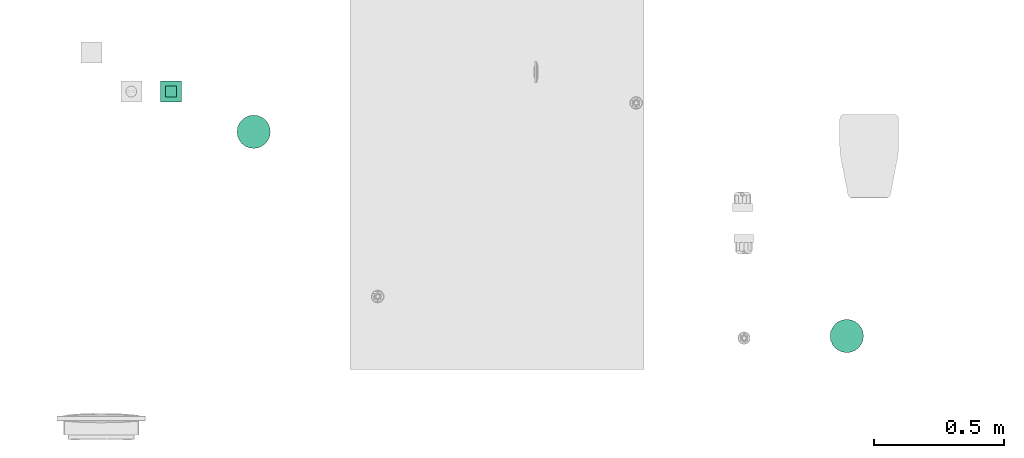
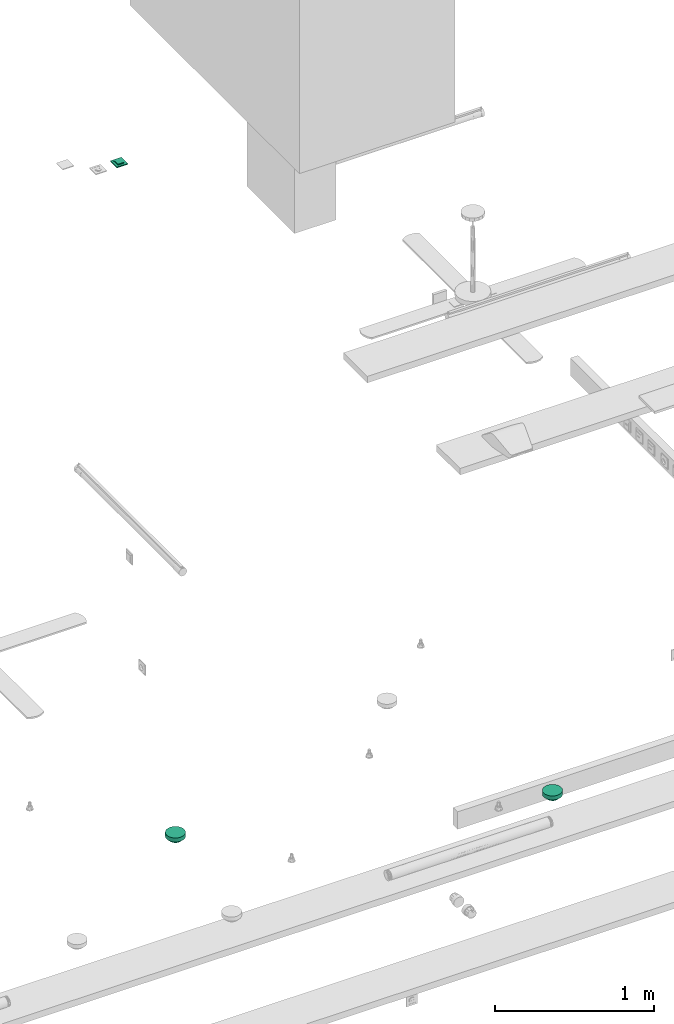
# One storey, part 68 of 153: 3 flow terminals.
"""IFC2X3 building model written with IfcOpenShell, lengths in metres."""

from ifc_helpers import new_model, entity, si_unit, converted_unit, derived_unit, direction, frame, origin, place, context, subcontext, project, spatial, faceted_brep, source, transform, mapped, type_object, type_shapes, element, save


model = new_model("IFC2X3")

# Units and contexts
model_context = context("Model", 3, precision=1e-05, world=origin(), true_north=direction((6.12303176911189e-17, 1.0)))
body_context = subcontext(model_context, "Body", "Model", "MODEL_VIEW")
ifc_project = project(units=[si_unit("LENGTHUNIT", "METRE"), si_unit("AREAUNIT", "SQUARE_METRE"), si_unit("VOLUMEUNIT", "CUBIC_METRE"), converted_unit("PLANEANGLEUNIT", "DEGREE", entity("IfcRatioMeasure", 0.0174532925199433), si_unit("PLANEANGLEUNIT", "RADIAN"), dimensions=[0, 0, 0, 0, 0, 0, 0]), si_unit("MASSUNIT", "GRAM", prefix="KILO"), derived_unit("MASSDENSITYUNIT", [(si_unit("MASSUNIT", "GRAM", prefix="KILO"), 1), (si_unit("LENGTHUNIT", "METRE"), -3)]), si_unit("TIMEUNIT", "SECOND"), si_unit("FREQUENCYUNIT", "HERTZ"), si_unit("THERMODYNAMICTEMPERATUREUNIT", "DEGREE_CELSIUS"), derived_unit("THERMALTRANSMITTANCEUNIT", [(si_unit("MASSUNIT", "GRAM", prefix="KILO"), 1), (si_unit("THERMODYNAMICTEMPERATUREUNIT", "KELVIN"), -1), (si_unit("TIMEUNIT", "SECOND"), -3)]), derived_unit("VOLUMETRICFLOWRATEUNIT", [(si_unit("LENGTHUNIT", "METRE"), 3), (si_unit("TIMEUNIT", "SECOND"), -1)]), si_unit("ELECTRICCURRENTUNIT", "AMPERE"), si_unit("ELECTRICVOLTAGEUNIT", "VOLT"), si_unit("POWERUNIT", "WATT"), si_unit("FORCEUNIT", "NEWTON"), si_unit("ILLUMINANCEUNIT", "LUX"), si_unit("LUMINOUSFLUXUNIT", "LUMEN"), si_unit("LUMINOUSINTENSITYUNIT", "CANDELA"), derived_unit("USERDEFINED", [(si_unit("MASSUNIT", "GRAM", prefix="KILO"), -1), (si_unit("LENGTHUNIT", "METRE"), -2), (si_unit("TIMEUNIT", "SECOND"), 3), (si_unit("LUMINOUSFLUXUNIT", "LUMEN"), 1)]), derived_unit("LINEARVELOCITYUNIT", [(si_unit("LENGTHUNIT", "METRE"), 1), (si_unit("TIMEUNIT", "SECOND"), -1)]), si_unit("PRESSUREUNIT", "PASCAL"), derived_unit("USERDEFINED", [(si_unit("LENGTHUNIT", "METRE"), -2), (si_unit("MASSUNIT", "GRAM", prefix="KILO"), 1), (si_unit("TIMEUNIT", "SECOND"), -2)])], contexts=[model_context])

# Site, building, storey
site_placement = place(None, origin())
site = spatial("IfcSite", under=ifc_project, at=site_placement, Name="Default", CompositionType="ELEMENT")
building_placement = place(site_placement, origin())
building = spatial("IfcBuilding", under=site, at=building_placement, CompositionType="ELEMENT")
storey_placement = place(building_placement, frame((0.0, 0.0, -4.62)))
storey = spatial("IfcBuildingStorey", under=building, at=storey_placement, Name="S02", CompositionType="ELEMENT", Elevation=-4.62)

# Flow terminals
light_fixture_type = type_object("IfcLightFixtureType", Name="Détecteur 360°", PredefinedType="NOTDEFINED")
shared_shape_1 = source(origin(), body_context, "Body", "Brep", [
    faceted_brep([(0.0, -0.0397165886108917, 0.0531256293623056), (0.0, -0.034524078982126, 0.0563702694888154), (-0.0175153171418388, -0.0435914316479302, 0.0478512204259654), (-0.0194029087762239, -0.000878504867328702, 0.0644483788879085), (0.0, 0.0, 0.0669999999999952), (0.0, 0.00603476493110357, 0.0659648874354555), (-0.0174057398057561, -0.0159851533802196, 0.0630502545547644), (-0.0366619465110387, -0.0127227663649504, 0.0549213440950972), (-0.026998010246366, -0.0195753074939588, 0.0584711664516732), (-0.0202403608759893, -0.0335607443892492, 0.054639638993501), (-0.0359767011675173, -0.0348394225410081, 0.0444249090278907), (-0.0276843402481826, -0.0401006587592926, 0.0459804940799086), (-0.0133088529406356, -0.0517577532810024, 0.0400582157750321), (-0.0172617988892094, -0.0486391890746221, 0.042533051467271), (-0.0256912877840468, -0.0533485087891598, 0.0299999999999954), (-0.0462941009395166, -0.0369183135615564, 0.0299999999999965), (0.0, -0.0241390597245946, 0.0628595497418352), (-0.0186245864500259, -0.0267295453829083, 0.0589100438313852), (-0.0139070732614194, -0.0374370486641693, 0.0540817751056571), (0.0, 0.0449090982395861, 0.049880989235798), (-0.0172618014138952, 0.0486391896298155, 0.0425330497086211), (0.0, 0.0397165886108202, 0.0531256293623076), (-0.0186245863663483, 0.0267295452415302, 0.0589100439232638), (-0.0202403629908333, 0.0335607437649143, 0.054639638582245), (-0.0353547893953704, 0.0284533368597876, 0.0494330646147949), (0.0, 0.0120695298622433, 0.0649297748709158), (-0.0249385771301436, 0.0204731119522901, 0.0590841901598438), (-0.0191783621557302, 0.0150189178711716, 0.062775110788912), (-0.0465404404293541, -0.0196510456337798, 0.0438984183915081), (-0.052010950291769, -0.0250471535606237, 0.029999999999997), (-0.0453471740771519, -0.0286501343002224, 0.0397747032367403), (-0.0365036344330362, -0.0226255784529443, 0.0516441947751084), (-0.0175153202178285, 0.0435914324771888, 0.0478512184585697), (-0.0359926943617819, 0.0451334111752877, 0.0299999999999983), (-0.0276843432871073, 0.0401006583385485, 0.0459804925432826), (-0.00849704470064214, -0.0572729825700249, 0.0299999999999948), (0.0, -0.0592123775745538, 0.0299999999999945), (0.0, -0.0545512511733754, 0.0364787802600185), (0.0, -0.049890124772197, 0.0429575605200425), (-0.0169940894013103, -0.055333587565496, 0.0299999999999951), (-0.0359767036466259, 0.0348394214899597, 0.0444249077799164), (-0.025691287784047, 0.0533485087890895, 0.0299999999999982), (-0.0308419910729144, 0.0492409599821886, 0.0299999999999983), (-0.0130265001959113, 0.0514867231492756, 0.040526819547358), (-0.0169940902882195, 0.0553335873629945, 0.029999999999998), (0.0, 0.0498901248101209, 0.0429575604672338), (-0.0353547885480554, -0.0284533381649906, 0.0494330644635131), (0.0, 0.0181042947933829, 0.0638946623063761), (-0.0473669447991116, -0.00128092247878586, 0.0474310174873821), (-0.0485435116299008, -0.00908961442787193, 0.0452357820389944), (-0.0366597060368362, -0.0032867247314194, 0.0563153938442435), (-0.0226425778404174, -0.0107553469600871, 0.0624973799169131), (0.0, -0.00603476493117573, 0.0659648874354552), (0.0, 0.0293315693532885, 0.0596149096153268), (-0.0139070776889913, 0.0374370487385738, 0.0540817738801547), (-0.0449600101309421, 0.018422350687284, 0.0461366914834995), (-0.0453471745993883, 0.0286501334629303, 0.0397747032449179), (-0.0476906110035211, 0.00670602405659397, 0.0466053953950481), (-0.0577277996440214, 0.0131759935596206, 0.0299999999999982), (-0.0577277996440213, 0.00658799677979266, 0.029999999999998), (-0.0577277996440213, 0.0, 0.0299999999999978), (0.0, -0.0449090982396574, 0.0498809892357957), (-0.0308419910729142, -0.049240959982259, 0.0299999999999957), (-0.0359926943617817, -0.0451334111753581, 0.029999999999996), (0.0, 0.0345240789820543, 0.0563702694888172), (-0.0411433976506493, 0.0410258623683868, 0.0299999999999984), (-0.0462941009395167, 0.0369183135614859, 0.0299999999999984), (-0.0491525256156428, -0.03098273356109, 0.0299999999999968), (-0.0577277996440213, -0.0131759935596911, 0.0299999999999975), (0.0, -0.018104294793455, 0.0638946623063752), (-0.0377433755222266, 0.0044838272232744, 0.0554913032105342), (-0.0577277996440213, -0.00658799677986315, 0.0299999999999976), (-0.0385149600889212, 0.0124844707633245, 0.0536578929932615), (-0.0491525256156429, 0.0309827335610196, 0.0299999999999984), (-0.0548693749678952, 0.0191115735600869, 0.0299999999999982), (0.0, 0.0241390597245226, 0.0628595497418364), (-0.014625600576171, 0.0100436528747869, 0.0649170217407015), (-0.0271766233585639, 0.00920278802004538, 0.0609170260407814), (0.0, -0.0120695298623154, 0.0649297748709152), (-0.0520109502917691, 0.0250471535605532, 0.0299999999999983), (-0.0411433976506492, -0.0410258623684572, 0.0299999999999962), (-0.0548693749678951, -0.0191115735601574, 0.0299999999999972), (0.0, -0.0293315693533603, 0.0596149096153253), (0.0, 0.0545512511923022, 0.0364787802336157), (0.0, 0.0592123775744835, 0.0299999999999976), (-0.00849704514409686, 0.057272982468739, 0.0299999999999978), (-0.0127455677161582, 0.0563032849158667, 0.0299999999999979), (-0.0213426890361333, 0.054341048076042, 0.0299999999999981), (0.0175153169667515, 0.0435914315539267, 0.0478512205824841), (0.0194029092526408, 0.000878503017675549, 0.0644483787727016), (0.017405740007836, 0.0159851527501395, 0.0630502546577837), (0.0366619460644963, 0.012722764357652, 0.0549213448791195), (0.0269980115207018, 0.0195753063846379, 0.0584711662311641), (0.0202403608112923, 0.0335607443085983, 0.0546396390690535), (0.0359767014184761, 0.0348394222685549, 0.0444249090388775), (0.0276843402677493, 0.0401006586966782, 0.0459804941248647), (0.0133088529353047, 0.0517577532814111, 0.0400582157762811), (0.0172617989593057, 0.0486391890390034, 0.0425330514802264), (0.0256912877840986, 0.0533485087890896, 0.0299999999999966), (0.0462941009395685, 0.0369183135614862, 0.0299999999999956), (0.00849704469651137, 0.0572729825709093, 0.0299999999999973), (0.0169940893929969, 0.0553335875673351, 0.029999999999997), (0.0172617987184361, -0.0486391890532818, 0.0425330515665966), (0.025691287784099, -0.0533485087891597, 0.0299999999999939), (0.0308419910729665, -0.0492409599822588, 0.0299999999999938), (0.0175153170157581, -0.0435914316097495, 0.0478512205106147), (0.0186245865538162, -0.0267295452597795, 0.0589100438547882), (0.0202403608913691, -0.03356074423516, 0.0546396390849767), (0.0353547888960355, -0.0284533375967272, 0.0494330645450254), (0.0249385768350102, -0.0204731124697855, 0.0590841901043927), (0.0191783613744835, -0.0150189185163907, 0.062775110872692), (0.0465404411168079, 0.0196510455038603, 0.0438984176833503), (0.0577277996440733, 0.0131759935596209, 0.0299999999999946), (0.0548693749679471, 0.0191115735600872, 0.0299999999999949), (0.0520109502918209, 0.0250471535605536, 0.0299999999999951), (0.0365036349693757, 0.0226255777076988, 0.0516441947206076), (0.0186245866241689, 0.0267295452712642, 0.0589100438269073), (0.0359926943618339, -0.0451334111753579, 0.0299999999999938), (0.0276843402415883, -0.0401006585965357, 0.0459804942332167), (0.0139070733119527, 0.0374370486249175, 0.0540817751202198), (0.0359767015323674, -0.0348394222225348, 0.044424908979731), (0.0226425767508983, 0.0107553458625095, 0.0624973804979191), (0.0169940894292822, -0.0553335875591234, 0.0299999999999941), (0.0130264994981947, -0.0514867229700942, 0.0405268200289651), (0.0453471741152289, 0.0286501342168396, 0.039774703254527), (0.0353547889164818, 0.0284533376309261, 0.0494330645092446), (0.0473669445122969, 0.00128092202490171, 0.0474310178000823), (0.0485435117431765, 0.00908961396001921, 0.0452357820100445), (0.0366597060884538, 0.00328672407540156, 0.0563153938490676), (0.0139070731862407, -0.0374370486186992, 0.0540817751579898), (0.0449600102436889, -0.018422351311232, 0.0461366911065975), (0.0453471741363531, -0.0286501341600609, 0.039774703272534), (0.0476906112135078, -0.00670602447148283, 0.046605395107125), (0.0577277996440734, -0.0131759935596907, 0.0299999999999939), (0.0577277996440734, -0.00658799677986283, 0.0299999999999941), (0.0577277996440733, 0.0, 0.0299999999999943), (0.0308419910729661, 0.0492409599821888, 0.0299999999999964), (0.0359926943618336, 0.0451334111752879, 0.0299999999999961), (0.0411433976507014, -0.041025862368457, 0.0299999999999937), (0.0462941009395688, -0.0369183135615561, 0.0299999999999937), (0.0491525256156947, 0.0309827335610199, 0.0299999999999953), (0.037743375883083, -0.00448382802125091, 0.0554913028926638), (0.0577277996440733, 0.00658799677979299, 0.0299999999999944), (0.0385149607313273, -0.0124844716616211, 0.0536578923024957), (0.049152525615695, -0.0309827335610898, 0.0299999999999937), (0.0548693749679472, -0.0191115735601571, 0.0299999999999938), (0.0146256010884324, -0.0100436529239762, 0.0649170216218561), (0.0271766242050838, -0.00920278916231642, 0.0609170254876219), (0.0520109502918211, -0.0250471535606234, 0.0299999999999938), (0.041143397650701, 0.0410258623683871, 0.0299999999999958), (0.00849704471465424, -0.0572729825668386, 0.0299999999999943), (0.0127455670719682, -0.056303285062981, 0.0299999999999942), (0.0213426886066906, -0.0543410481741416, 0.029999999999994), (0.0, 0.0, 0.0299999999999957)], [[[0, 1, 2]], [[3, 4, 5]], [[6, 7, 8]], [[9, 10, 11]], [[12, 13, 14]], [[10, 15, 11]], [[9, 16, 17]], [[18, 9, 11]], [[19, 20, 21]], [[22, 23, 24]], [[25, 26, 27]], [[28, 29, 30]], [[8, 31, 17]], [[32, 33, 34]], [[35, 36, 37, 38, 39]], [[23, 40, 24]], [[20, 41, 42]], [[19, 43, 20]], [[44, 43, 45]], [[20, 32, 21]], [[30, 10, 46]], [[22, 26, 47]], [[48, 49, 50]], [[3, 51, 52]], [[53, 54, 23]], [[55, 24, 56]], [[57, 58, 59, 60]], [[13, 61, 0]], [[13, 0, 2]], [[2, 62, 13]], [[18, 2, 1]], [[2, 11, 63]], [[32, 64, 21]], [[32, 42, 33]], [[34, 33, 65, 66]], [[20, 42, 32]], [[54, 32, 34]], [[28, 30, 31]], [[10, 67, 15]], [[49, 68, 28]], [[8, 17, 69]], [[7, 6, 51]], [[28, 31, 7]], [[57, 48, 70]], [[58, 57, 55]], [[48, 71, 49]], [[70, 48, 50]], [[3, 50, 51]], [[55, 26, 24]], [[72, 57, 70]], [[26, 55, 72]], [[56, 40, 73]], [[56, 74, 55]], [[47, 75, 22]], [[52, 4, 3]], [[7, 50, 49]], [[5, 76, 3]], [[70, 3, 77]], [[51, 78, 52]], [[26, 25, 47]], [[76, 25, 27]], [[23, 22, 75]], [[26, 22, 24]], [[53, 64, 54]], [[23, 34, 40]], [[66, 40, 34]], [[40, 66, 73]], [[56, 73, 79, 74]], [[72, 27, 26]], [[40, 56, 24]], [[23, 75, 53]], [[69, 17, 16]], [[78, 6, 69]], [[46, 10, 9]], [[46, 9, 17]], [[50, 7, 51]], [[30, 29, 67]], [[80, 63, 11, 15]], [[28, 68, 81, 29]], [[10, 30, 67]], [[30, 46, 31]], [[82, 18, 1]], [[82, 16, 9]], [[28, 7, 49]], [[12, 39, 38]], [[61, 13, 12]], [[83, 84, 85, 86, 44, 45]], [[43, 41, 20]], [[44, 87, 41, 43]], [[32, 54, 64]], [[23, 54, 34]], [[9, 18, 82]], [[2, 18, 11]], [[39, 12, 14]], [[38, 61, 12]], [[62, 2, 63]], [[62, 14, 13]], [[17, 31, 46]], [[7, 31, 8]], [[48, 60, 71]], [[71, 68, 49]], [[60, 48, 57]], [[3, 70, 50]], [[72, 70, 77]], [[72, 77, 27]], [[55, 57, 72]], [[74, 58, 55]], [[76, 27, 77]], [[3, 76, 77]], [[25, 76, 5]], [[69, 6, 8]], [[78, 51, 6]], [[45, 43, 19]], [[21, 64, 88]], [[89, 4, 52]], [[90, 91, 92]], [[93, 94, 95]], [[96, 97, 98]], [[94, 99, 95]], [[100, 84, 83, 45, 101]], [[102, 103, 104]], [[102, 105, 0]], [[106, 107, 108]], [[78, 109, 110]], [[111, 112, 113, 114]], [[92, 115, 116]], [[105, 117, 118]], [[119, 93, 95]], [[107, 120, 108]], [[89, 121, 5]], [[122, 123, 38]], [[61, 123, 102]], [[93, 75, 116]], [[124, 94, 125]], [[106, 109, 69]], [[126, 127, 128]], [[61, 102, 0]], [[82, 129, 107]], [[130, 108, 131]], [[132, 133, 134, 135]], [[97, 19, 21]], [[97, 21, 88]], [[88, 136, 97]], [[119, 88, 64]], [[88, 95, 137]], [[105, 1, 0]], [[105, 104, 117]], [[118, 117, 138, 139]], [[102, 104, 105]], [[129, 105, 118]], [[111, 124, 115]], [[94, 140, 99]], [[127, 112, 111]], [[92, 116, 47]], [[91, 90, 121]], [[111, 115, 91]], [[132, 126, 141]], [[133, 132, 130]], [[126, 142, 127]], [[141, 126, 128]], [[89, 128, 121]], [[130, 109, 108]], [[143, 132, 141]], [[109, 130, 143]], [[131, 120, 144]], [[131, 145, 130]], [[69, 16, 106]], [[5, 4, 89]], [[91, 128, 127]], [[52, 146, 89]], [[141, 89, 147]], [[121, 25, 5]], [[109, 78, 69]], [[146, 78, 110]], [[107, 106, 16]], [[109, 106, 108]], [[82, 1, 129]], [[107, 118, 120]], [[139, 120, 118]], [[120, 139, 144]], [[131, 144, 148, 145]], [[143, 110, 109]], [[120, 131, 108]], [[107, 16, 82]], [[47, 116, 75]], [[25, 90, 47]], [[125, 94, 93]], [[125, 93, 116]], [[128, 91, 121]], [[124, 114, 140]], [[149, 137, 95, 99]], [[111, 114, 124]], [[94, 124, 140]], [[124, 125, 115]], [[53, 119, 64]], [[53, 75, 93]], [[111, 91, 127]], [[96, 101, 45]], [[19, 97, 96]], [[37, 36, 150, 151, 122, 38]], [[123, 103, 102]], [[122, 152, 103, 123]], [[105, 129, 1]], [[107, 129, 118]], [[93, 119, 53]], [[88, 119, 95]], [[101, 96, 98]], [[45, 19, 96]], [[136, 88, 137]], [[136, 98, 97]], [[116, 115, 125]], [[91, 115, 92]], [[126, 135, 142]], [[142, 112, 127]], [[135, 126, 132]], [[89, 141, 128]], [[143, 141, 147]], [[143, 147, 110]], [[130, 132, 143]], [[145, 133, 130]], [[146, 110, 147]], [[89, 146, 147]], [[78, 146, 52]], [[47, 90, 92]], [[25, 121, 90]], [[38, 123, 61]], [[153, 66, 65]], [[153, 65, 33]], [[153, 33, 42]], [[153, 42, 41]], [[153, 41, 87]], [[153, 73, 66]], [[153, 79, 73]], [[153, 74, 79]], [[153, 58, 74]], [[153, 87, 44]], [[153, 44, 86]], [[153, 86, 85]], [[153, 85, 84]], [[153, 84, 100]], [[153, 59, 58]], [[153, 60, 59]], [[153, 71, 60]], [[153, 68, 71]], [[153, 81, 68]], [[153, 29, 81]], [[153, 67, 29]], [[153, 15, 67]], [[153, 80, 15]], [[153, 63, 80]], [[153, 62, 63]], [[153, 14, 62]], [[153, 39, 14]], [[153, 35, 39]], [[153, 36, 35]], [[153, 100, 101]], [[153, 101, 98]], [[153, 98, 136]], [[153, 136, 137]], [[153, 137, 149]], [[153, 149, 99]], [[153, 99, 140]], [[153, 140, 114]], [[153, 114, 113]], [[153, 113, 112]], [[153, 112, 142]], [[153, 150, 36]], [[153, 151, 150]], [[153, 122, 151]], [[153, 152, 122]], [[153, 103, 152]], [[153, 104, 103]], [[153, 117, 104]], [[153, 138, 117]], [[153, 139, 138]], [[153, 144, 139]], [[153, 148, 144]], [[153, 145, 148]], [[153, 133, 145]], [[153, 142, 135]], [[153, 135, 134]], [[153, 134, 133]]]),
    faceted_brep([(0.0165644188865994, -0.0618192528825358, 0.029999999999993), (0.0320000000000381, -0.0554256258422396, 0.0299999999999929), (0.0452548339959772, -0.0452548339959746, 0.0299999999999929), (0.0554256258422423, -0.0320000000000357, 0.029999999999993), (0.0618192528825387, -0.016564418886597, 0.0299999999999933), (0.0640000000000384, 0.0, 0.0299999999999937), (0.0618192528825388, 0.016564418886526, 0.0299999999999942), (0.0554256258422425, 0.0319999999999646, 0.0299999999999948), (0.0452548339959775, 0.0452548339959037, 0.0299999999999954), (0.0320000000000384, 0.0554256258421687, 0.0299999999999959), (0.0165644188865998, 0.061819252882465, 0.0299999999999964), (0.0, 0.0639999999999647, 0.0299999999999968), (-0.0165644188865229, 0.061819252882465, 0.0299999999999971), (-0.0319999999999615, 0.0554256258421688, 0.0299999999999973), (-0.0452548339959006, 0.0452548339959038, 0.0299999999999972), (-0.0554256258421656, 0.0319999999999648, 0.0299999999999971), (-0.0618192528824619, 0.0165644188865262, 0.0299999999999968), (-0.0639999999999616, 0.0, 0.0299999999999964), (-0.061819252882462, -0.0165644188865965, 0.0299999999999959), (-0.0554256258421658, -0.0320000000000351, 0.0299999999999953), (-0.0452548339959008, -0.0452548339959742, 0.0299999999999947), (-0.0319999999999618, -0.0554256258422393, 0.0299999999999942), (-0.0165644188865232, -0.0618192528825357, 0.0299999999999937), (0.0, -0.0640000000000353, 0.0299999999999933), (0.0165644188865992, 0.0618192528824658, 0.0), (0.0320000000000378, 0.0554256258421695, 0.0), (0.0452548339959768, 0.0452548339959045, 0.0), (0.0554256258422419, 0.0319999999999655, 0.0), (0.0618192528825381, 0.0165644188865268, 0.0), (0.0640000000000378, 0.0, 0.0), (0.061819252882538, -0.0165644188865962, 0.0), (0.0554256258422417, -0.0320000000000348, 0.0), (0.0452548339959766, -0.0452548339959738, 0.0), (0.0320000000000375, -0.0554256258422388, 0.0), (0.0165644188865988, -0.061819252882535, 0.0), (0.0, -0.0640000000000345, 0.0), (-0.0165644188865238, -0.0618192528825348, 0.0), (-0.0319999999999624, -0.0554256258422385, 0.0), (-0.0452548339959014, -0.0452548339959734, 0.0), (-0.0554256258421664, -0.0320000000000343, 0.0), (-0.0618192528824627, -0.0165644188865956, 0.0), (-0.0639999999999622, 0.0, 0.0), (-0.0618192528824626, 0.016564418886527, 0.0), (-0.0554256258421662, 0.0319999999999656, 0.0), (-0.0452548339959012, 0.0452548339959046, 0.0), (-0.0319999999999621, 0.0554256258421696, 0.0), (-0.0165644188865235, 0.0618192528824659, 0.0), (0.0, 0.0639999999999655, 0.0)], [[[0, 1, 2, 3, 4, 5, 6, 7, 8, 9, 10, 11, 12, 13, 14, 15, 16, 17, 18, 19, 20, 21, 22, 23]], [[24, 25, 26, 27, 28, 29, 30, 31, 32, 33, 34, 35, 36, 37, 38, 39, 40, 41, 42, 43, 44, 45, 46, 47]], [[40, 18, 17, 41]], [[39, 19, 18, 40]], [[21, 20, 38, 37]], [[39, 38, 20, 19]], [[22, 21, 37, 36]], [[23, 22, 36, 35]], [[34, 0, 23, 35]], [[33, 1, 0, 34]], [[3, 2, 32, 31]], [[33, 32, 2, 1]], [[4, 3, 31, 30]], [[5, 4, 30, 29]], [[28, 6, 5, 29]], [[27, 7, 6, 28]], [[9, 8, 26, 25]], [[27, 26, 8, 7]], [[10, 9, 25, 24]], [[11, 10, 24, 47]], [[46, 12, 11, 47]], [[45, 13, 12, 46]], [[42, 41, 17, 16]], [[44, 14, 13, 45]], [[43, 15, 14, 44]], [[43, 42, 16, 15]]]),
])
type_shapes(light_fixture_type, [shared_shape_1])
for number, where, z_axis, x_axis in (
    (1, (48.7902567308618, -192.859651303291, 3.41), (0.0, 0.0, -1.0), (0.0, -1.0, 0.0)),
    (2, (46.5068293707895, -192.073404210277, 3.41), (0.0, 0.0, -1.0), (0.0, -1.0, 0.0)),
):
    element("IfcFlowTerminal", number, at=place(storey_placement, frame(where, z_axis=z_axis, x_axis=x_axis)), inside=storey, type_object=light_fixture_type, Name="INT - Détecteur 360°:Détecteur 360°", ObjectType="INT - Détecteur 360°:Détecteur 360°", context=body_context, shape_type="MappedRepresentation", body=[
        mapped(shared_shape_1, transform((0.0, 0.0, 0.0), scale=1.0)),
    ])
electric_appliance_type = type_object("IfcElectricApplianceType", Name="RJ45 IP21", PredefinedType="NOTDEFINED")
shared_shape_2 = source(origin(), body_context, "Body", "Brep", [
    faceted_brep([(0.00200000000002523, 0.0, 0.00799999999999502), (0.00400000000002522, 0.0, 0.00799999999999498), (0.00500000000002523, 0.00199999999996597, 0.00799999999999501), (0.0110000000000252, 0.00199999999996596, 0.00799999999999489), (0.0120000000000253, 0.0, 0.00799999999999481), (0.0140000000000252, 0.0, 0.00799999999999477), (0.0140000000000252, 0.00399999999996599, 0.00799999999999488), (0.00200000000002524, 0.00399999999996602, 0.00799999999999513), (0.00200000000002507, 0.0, 0.0), (0.00200000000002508, 0.00399999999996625, 0.0), (0.0140000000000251, 0.00399999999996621, 0.0), (0.0140000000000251, 0.0, 0.0), (0.0120000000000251, 0.0, 0.0), (0.0110000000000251, 0.00199999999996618, 0.0), (0.00500000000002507, 0.0019999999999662, 0.0), (0.00400000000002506, 0.0, 0.0)], [[[0, 1, 2, 3, 4, 5, 6, 7]], [[8, 9, 10, 11, 12, 13, 14, 15]], [[1, 0, 8, 15]], [[2, 1, 15, 14]], [[3, 2, 14, 13]], [[4, 3, 13, 12]], [[5, 4, 12, 11]], [[6, 5, 11, 10]], [[7, 6, 10, 9]], [[0, 7, 9, 8]]]),
    faceted_brep([(-0.0139999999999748, 0.0, 0.00799999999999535), (-0.0119999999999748, 0.0, 0.00799999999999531), (-0.0109999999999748, 0.00199999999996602, 0.00799999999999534), (-0.00499999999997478, 0.00199999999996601, 0.00799999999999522), (-0.0039999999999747, 0.0, 0.00799999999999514), (-0.00199999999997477, 0.0, 0.0079999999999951), (-0.00199999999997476, 0.00399999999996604, 0.00799999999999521), (-0.0139999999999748, 0.00399999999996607, 0.00799999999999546), (-0.0139999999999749, 0.0, 0.0), (-0.0139999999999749, 0.00399999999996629, 0.0), (-0.00199999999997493, 0.00399999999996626, 0.0), (-0.00199999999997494, 0.0, 0.0), (-0.00399999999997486, 0.0, 0.0), (-0.00499999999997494, 0.00199999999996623, 0.0), (-0.0109999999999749, 0.00199999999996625, 0.0), (-0.0119999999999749, 0.0, 0.0)], [[[0, 1, 2, 3, 4, 5, 6, 7]], [[8, 9, 10, 11, 12, 13, 14, 15]], [[1, 0, 8, 15]], [[2, 1, 15, 14]], [[3, 2, 14, 13]], [[4, 3, 13, 12]], [[5, 4, 12, 11]], [[6, 5, 11, 10]], [[7, 6, 10, 9]], [[0, 7, 9, 8]]]),
    faceted_brep([(0.0140000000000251, 0.00399999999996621, 0.0), (0.00200000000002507, 0.00399999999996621, 0.0), (0.00200000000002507, -0.00350000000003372, 0.0), (0.0140000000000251, -0.00350000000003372, 0.0), (0.0140000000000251, 0.00399999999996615, 0.00199999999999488), (0.00200000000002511, 0.00399999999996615, 0.00199999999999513), (0.00200000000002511, -0.00393859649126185, 0.00199999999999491), (0.0140000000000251, -0.00393859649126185, 0.00199999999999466), (0.0210000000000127, 0.0209999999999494, 0.00199999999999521), (-0.0209999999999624, 0.0209999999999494, 0.00199999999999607), (-0.0209999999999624, -0.0210000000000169, 0.00199999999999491), (0.0210000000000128, -0.0210000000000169, 0.00199999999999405), (-0.0139999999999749, 0.0039999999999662, 0.00199999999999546), (-0.0019999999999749, 0.0039999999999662, 0.00199999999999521), (-0.00199999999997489, -0.0039385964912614, 0.00199999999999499), (-0.0139999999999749, -0.00393859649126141, 0.00199999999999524), (0.0210000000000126, 0.0209999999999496, -0.00460000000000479), (0.0210000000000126, -0.0210000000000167, -0.00460000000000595), (-0.0209999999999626, -0.0210000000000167, -0.00460000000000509), (-0.0209999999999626, 0.0209999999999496, -0.00460000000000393), (-0.00199999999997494, 0.00399999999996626, 0.0), (-0.0139999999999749, 0.00399999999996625, 0.0), (-0.0139999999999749, -0.00350000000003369, 0.0), (-0.00199999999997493, -0.00350000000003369, 0.0)], [[[0, 1, 2, 3]], [[1, 0, 4, 5]], [[2, 1, 5, 6]], [[3, 2, 6, 7]], [[0, 3, 7, 4]], [[5, 4, 7, 6], [8, 9, 10, 11], [12, 13, 14, 15]], [[16, 17, 18, 19]], [[9, 8, 16, 19]], [[10, 9, 19, 18]], [[11, 10, 18, 17]], [[8, 11, 17, 16]], [[20, 21, 22, 23]], [[21, 20, 13, 12]], [[22, 21, 12, 15]], [[23, 22, 15, 14]], [[20, 23, 14, 13]]], outer=[[True], [True], [True], [True], [True], [False, True, False], [True], [True], [True], [True], [True], [True], [True], [True], [True], [True]]),
    faceted_brep([(0.0270000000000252, 0.026999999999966, 0.0113999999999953), (-0.0269999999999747, 0.026999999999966, 0.0113999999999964), (-0.0269999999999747, -0.0270000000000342, 0.0113999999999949), (0.0270000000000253, -0.0270000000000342, 0.0113999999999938), (0.0020000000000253, 0.00399999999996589, 0.0113999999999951), (0.0140000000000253, 0.00399999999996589, 0.0113999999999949), (0.0140000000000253, -0.00600000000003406, 0.0113999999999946), (0.0020000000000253, -0.00600000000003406, 0.0113999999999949), (-0.0139999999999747, 0.00399999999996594, 0.0113999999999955), (-0.00199999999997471, 0.00399999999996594, 0.0113999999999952), (-0.00199999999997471, -0.0060000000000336, 0.0113999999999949), (-0.0139999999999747, -0.00600000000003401, 0.0113999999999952), (0.0270000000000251, 0.0269999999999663, 0.00199999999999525), (0.0270000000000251, -0.0270000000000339, 0.00199999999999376), (-0.0269999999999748, -0.0270000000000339, 0.00199999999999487), (-0.0269999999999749, 0.0269999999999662, 0.00199999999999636), (0.0140000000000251, 0.00399999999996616, 0.00199999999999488), (0.00200000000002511, 0.00399999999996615, 0.00199999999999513), (0.00200000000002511, -0.00393859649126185, 0.00199999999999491), (0.0140000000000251, -0.00393859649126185, 0.00199999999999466), (-0.00199999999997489, 0.0039999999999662, 0.00199999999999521), (-0.0139999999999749, 0.0039999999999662, 0.00199999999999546), (-0.0139999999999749, -0.0039385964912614, 0.00199999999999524), (-0.00199999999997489, -0.0039385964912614, 0.00199999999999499)], [[[0, 1, 2, 3], [4, 5, 6, 7], [8, 9, 10, 11]], [[12, 13, 14, 15], [16, 17, 18, 19], [20, 21, 22, 23]], [[1, 0, 12, 15]], [[2, 1, 15, 14]], [[3, 2, 14, 13]], [[0, 3, 13, 12]], [[4, 17, 16, 5]], [[17, 4, 7, 18]], [[18, 7, 6, 19]], [[5, 16, 19, 6]], [[8, 21, 20, 9]], [[21, 8, 11, 22]], [[22, 11, 10, 23]], [[9, 20, 23, 10]]]),
    faceted_brep([(0.027000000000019, 0.0269999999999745, 0.00659999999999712), (-0.0269999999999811, 0.0269999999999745, 0.00659999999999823), (-0.026999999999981, -0.0270000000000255, 0.00659999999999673), (0.027000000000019, -0.0270000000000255, 0.00659999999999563), (0.040350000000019, 0.0403499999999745, 0.00659999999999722), (0.040350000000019, -0.0403500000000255, 0.00659999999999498), (-0.0403499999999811, -0.0403500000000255, 0.00659999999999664), (-0.0403499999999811, 0.0403499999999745, 0.00659999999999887), (-0.026999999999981, 0.0269999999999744, 0.0103999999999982), (0.027000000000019, 0.0269999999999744, 0.0103999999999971), (-0.026999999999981, -0.0270000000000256, 0.0103999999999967), (0.027000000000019, -0.0270000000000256, 0.0103999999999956)], [[[0, 1, 2, 3], [4, 5, 6, 7]], [[4, 7, 8, 9]], [[7, 6, 10, 8]], [[6, 5, 11, 10]], [[5, 4, 9, 11]], [[0, 9, 8, 1]], [[1, 8, 10, 2]], [[2, 10, 11, 3]], [[9, 0, 3, 11]]], outer=[[False, True], [True], [True], [True], [True], [True], [True], [True], [True]]),
    faceted_brep([(0.040350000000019, 0.0403499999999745, 0.00659999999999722), (-0.0403499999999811, 0.0403499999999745, 0.00659999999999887), (-0.0403499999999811, -0.0403500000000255, 0.00659999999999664), (0.040350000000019, -0.0403500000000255, 0.00659999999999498), (-0.0269999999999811, 0.0269999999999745, 0.00659999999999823), (0.0270000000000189, 0.0269999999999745, 0.00659999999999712), (0.0270000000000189, -0.0270000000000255, 0.00659999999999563), (-0.0269999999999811, -0.0270000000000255, 0.00659999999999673), (0.0403500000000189, 0.0403499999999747, 0.0), (0.0403500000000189, -0.0403500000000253, 0.0), (-0.0403499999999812, -0.0403500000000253, 0.0), (-0.0403499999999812, 0.0403499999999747, 0.0), (0.0270000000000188, 0.0269999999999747, 0.0), (-0.0269999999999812, 0.0269999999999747, 0.0), (-0.0269999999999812, -0.0270000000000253, 0.0), (0.0270000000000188, -0.0270000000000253, 0.0)], [[[0, 1, 2, 3], [4, 5, 6, 7]], [[8, 9, 10, 11], [12, 13, 14, 15]], [[1, 0, 8, 11]], [[2, 1, 11, 10]], [[3, 2, 10, 9]], [[0, 3, 9, 8]], [[12, 5, 4, 13]], [[13, 4, 7, 14]], [[14, 7, 6, 15]], [[5, 12, 15, 6]]]),
])
type_shapes(electric_appliance_type, [shared_shape_2])
flow_terminal_placement = place(building_placement, frame((46.1886445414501, -191.917970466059, 3.95), z_axis=(0.0, 0.0, -1.0), x_axis=(-1.0, 0.0, 0.0)))
element("IfcFlowTerminal", 3, at=flow_terminal_placement, inside=storey, type_object=electric_appliance_type, Name="INT_Prise RJ45:RJ45 IP21", ObjectType="INT_Prise RJ45:RJ45 IP21", context=body_context, shape_type="MappedRepresentation", body=[
    mapped(shared_shape_2, transform((0.0, 0.0, 0.0), scale=1.0)),
])

save(model, "model.ifc")
